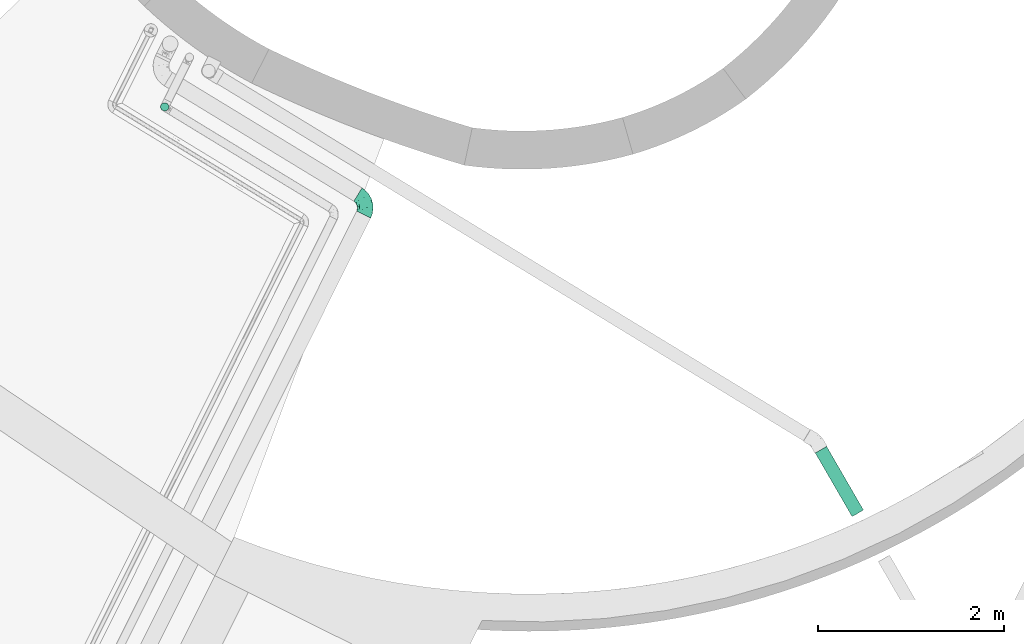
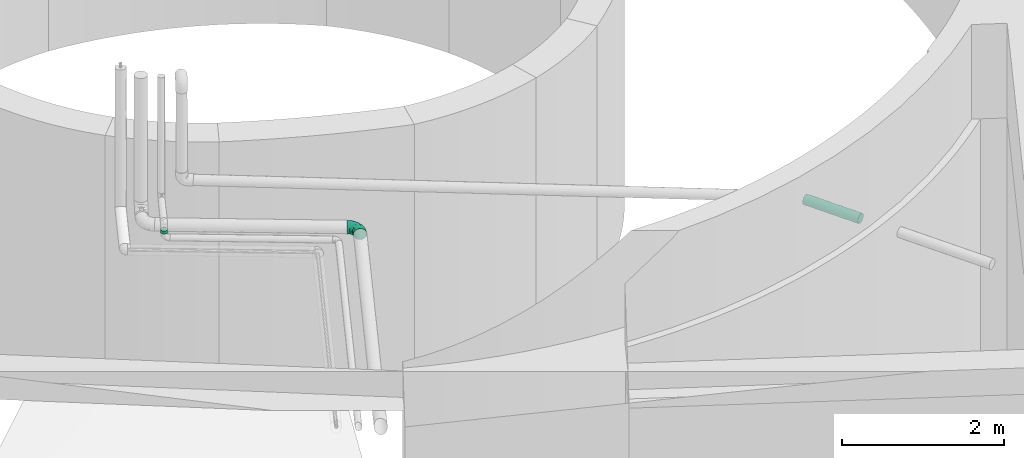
# One storey, part 33 of 47: 2 flow segments, 1 flow fitting.
"""IFC2X3 building model written with IfcOpenShell, lengths in metres."""

from ifc_helpers import new_model, entity, si_unit, converted_unit, derived_unit, direction, frame, frame_2d, origin, place, context, subcontext, project, spatial, circle, extrude, faceted_brep, source, transform, mapped, type_object, type_shapes, element, save


model = new_model("IFC2X3")

# Units and contexts
model_context = context("Model", 3, precision=1e-05, world=origin(), true_north=direction((0.894925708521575, 0.446215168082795)))
context_of_model = context(None, 3, precision=1e-05, world=origin(), true_north=direction((0.894925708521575, 0.446215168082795)))
body_context = subcontext(model_context, "Body", "Model", "MODEL_VIEW")
ifc_project = project(units=[si_unit("LENGTHUNIT", "METRE"), si_unit("AREAUNIT", "SQUARE_METRE"), si_unit("VOLUMEUNIT", "CUBIC_METRE"), converted_unit("PLANEANGLEUNIT", "DEGREE", entity("IfcRatioMeasure", 0.0174532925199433), si_unit("PLANEANGLEUNIT", "RADIAN"), dimensions=[0, 0, 0, 0, 0, 0, 0]), si_unit("MASSUNIT", "GRAM", prefix="KILO"), si_unit("TIMEUNIT", "SECOND"), si_unit("FREQUENCYUNIT", "HERTZ"), si_unit("THERMODYNAMICTEMPERATUREUNIT", "DEGREE_CELSIUS"), derived_unit("THERMALTRANSMITTANCEUNIT", [(si_unit("MASSUNIT", "GRAM", prefix="KILO"), 1), (si_unit("THERMODYNAMICTEMPERATUREUNIT", "KELVIN"), -1), (si_unit("TIMEUNIT", "SECOND"), -3)]), derived_unit("VOLUMETRICFLOWRATEUNIT", [(si_unit("LENGTHUNIT", "METRE"), 3), (si_unit("TIMEUNIT", "SECOND"), -1)]), si_unit("ELECTRICCURRENTUNIT", "AMPERE"), si_unit("ELECTRICVOLTAGEUNIT", "VOLT"), si_unit("POWERUNIT", "WATT"), si_unit("FORCEUNIT", "NEWTON", prefix="KILO"), si_unit("ILLUMINANCEUNIT", "LUX"), si_unit("LUMINOUSFLUXUNIT", "LUMEN"), si_unit("LUMINOUSINTENSITYUNIT", "CANDELA"), si_unit("PRESSUREUNIT", "PASCAL")], contexts=[model_context, context_of_model])

# Site, building, storey
site_placement = place(None, frame((218.228324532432, 584.720189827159, 0.0), z_axis=(0.0, 0.0, 1.0), x_axis=(0.446215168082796, 0.894925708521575, 0.0)))
site = spatial("IfcSite", under=ifc_project, at=site_placement, Name="Default", CompositionType="ELEMENT")
building_placement = place(site_placement, origin())
building = spatial("IfcBuilding", under=site, at=building_placement, CompositionType="ELEMENT")
storey_placement = place(building_placement, frame((0.0, 0.0, 4.69)))
storey = spatial("IfcBuildingStorey", under=building, at=storey_placement, Name="1 - Piano Primo", CompositionType="ELEMENT", Elevation=4.69)

# Flow segments
pipe_segment_type_1 = type_object("IfcPipeSegmentType", Name="Tubazione:Pluviale-Tubazione", PredefinedType="NOTDEFINED")
flow_segment_1_placement = place(storey_placement, frame((65.6548572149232, -10.9185110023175, 3.21259764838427)))
element("IfcFlowSegment", 1, at=flow_segment_1_placement, inside=storey, type_object=pipe_segment_type_1, Name="Tubazione:Pluviale-Tubazione", ObjectType="Tubazione:Pluviale-Tubazione", context=body_context, shape_type="SweptSolid", body=[
    extrude(circle(Radius=0.0706501, at=frame_2d((-7.2302681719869e-15, -8.32787072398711e-17), x_axis=(1.0, 0.0))), frame((0.0605613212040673, 0.0405111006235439, 0.0722346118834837), z_axis=(0.55074092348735, 0.834493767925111, 0.0174524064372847), x_axis=(-0.834620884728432, 0.550824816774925, 0.0)), (0.0, 0.0, 1.0), 0.789521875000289),
])
pipe_segment_type_2 = type_object("IfcPipeSegmentType", Name="Tubazione:Antincendio-Tubazione", PredefinedType="NOTDEFINED")
flow_segment_2_placement = place(storey_placement, frame((66.253347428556, -2.31966475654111, 3.03599999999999)))
element("IfcFlowSegment", 2, at=flow_segment_2_placement, inside=storey, type_object=pipe_segment_type_2, Name="Tubazione:Antincendio-Tubazione", ObjectType="Tubazione:Antincendio-Tubazione", context=body_context, shape_type="SweptSolid", body=[
    extrude(circle(Radius=0.04445, at=frame_2d((0.0, -2.70716782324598e-16), x_axis=(1.0, 0.0))), frame((0.0460452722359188, 0.0460452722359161, 0.0)), (0.0, 0.0, 1.0), 0.0480000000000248),
])

# Flow fitting
pipe_fitting_type = type_object("IfcPipeFittingType", Name="Standard", PredefinedType="NOTDEFINED")
shared_shape = source(origin(), body_context, "Body", "Brep", [
    faceted_brep([(-0.151999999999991, 0.0, -0.0841500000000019), (-0.151999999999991, -0.0217796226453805, -0.081282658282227), (-0.151999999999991, -0.0420750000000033, -0.0728760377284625), (-0.151999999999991, -0.0595030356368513, -0.05950303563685), (-0.151999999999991, -0.0728760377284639, -0.0420750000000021), (-0.151999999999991, -0.0812826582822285, -0.0217796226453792), (-0.151999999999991, -0.0841500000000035, 0.0), (-0.151999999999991, -0.0812826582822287, 0.021779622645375), (-0.151999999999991, -0.0728760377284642, 0.0420749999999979), (-0.151999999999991, -0.0595030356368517, 0.0595030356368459), (-0.151999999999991, -0.0420750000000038, 0.0728760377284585), (-0.151999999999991, -0.0217796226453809, 0.0812826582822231), (-0.151999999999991, 0.0, 0.0841499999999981), (-0.151999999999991, 0.0217796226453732, 0.0812826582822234), (-0.151999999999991, 0.0420749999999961, 0.0728760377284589), (-0.151999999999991, 0.0595030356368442, 0.0595030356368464), (-0.151999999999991, 0.0728760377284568, 0.0420749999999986), (-0.151999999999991, 0.0812826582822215, 0.0217796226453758), (-0.151999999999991, 0.0841499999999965, 0.0), (-0.151999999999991, 0.0812826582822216, -0.021779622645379), (-0.151999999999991, 0.0728760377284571, -0.0420750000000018), (-0.151999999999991, 0.0595030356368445, -0.0595030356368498), (-0.151999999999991, 0.0420749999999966, -0.0728760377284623), (-0.151999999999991, 0.0217796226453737, -0.0812826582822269), (0.0854479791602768, 0.145305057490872, -0.0420750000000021), (0.0721227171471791, 0.146434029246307, -0.05950303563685), (0.0547568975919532, 0.147905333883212, -0.0728760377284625), (0.034533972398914, 0.149618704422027, -0.081282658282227), (0.012832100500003, 0.15145737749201, -0.0841500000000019), (-0.00886977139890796, 0.153296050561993, -0.0812826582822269), (-0.0290926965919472, 0.155009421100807, -0.0728760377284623), (-0.046458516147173, 0.156480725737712, -0.0595030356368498), (-0.0597837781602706, 0.157609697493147, -0.0420750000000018), (-0.068160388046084, 0.158319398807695, -0.021779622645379), (-0.0710174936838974, 0.158561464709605, 0.0), (-0.0681603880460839, 0.158319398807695, 0.0217796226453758), (-0.0597837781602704, 0.157609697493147, 0.0420749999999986), (-0.0464585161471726, 0.156480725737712, 0.0595030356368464), (-0.0290926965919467, 0.155009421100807, 0.0728760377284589), (-0.00886977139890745, 0.153296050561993, 0.0812826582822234), (0.0128321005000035, 0.15145737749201, 0.0841499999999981), (0.0345339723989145, 0.149618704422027, 0.0812826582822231), (0.0547568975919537, 0.147905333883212, 0.0728760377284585), (0.0721227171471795, 0.146434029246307, 0.0595030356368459), (0.085447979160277, 0.145305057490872, 0.0420749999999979), (0.0938245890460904, 0.144595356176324, 0.021779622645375), (0.0966816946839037, 0.144353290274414, 0.0), (0.0938245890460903, 0.144595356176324, -0.0217796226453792), (-0.108023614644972, -0.0653863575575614, 0.0473880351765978), (-0.0953306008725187, -0.0485685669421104, 0.06285994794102), (-0.0994067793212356, -0.0785455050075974, 0.0), (0.0353835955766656, 0.000577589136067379, 0.0), (0.0158141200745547, -0.0172106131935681, 0.016063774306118), (-0.00356267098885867, -0.0352085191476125, 0.0), (-0.0984850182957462, -0.0739036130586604, 0.0266642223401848), (-0.077653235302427, 0.127498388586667, 0.0190647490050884), (-0.0744292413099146, 0.119924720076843, 0.0371750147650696), (0.0450435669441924, 0.0527612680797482, 0.0573779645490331), (0.0273056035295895, 0.0524970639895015, 0.0701487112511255), (0.0236525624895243, 0.0180683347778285, 0.0548094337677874), (0.0113854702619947, -0.0123908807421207, 0.0360075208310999), (0.0512433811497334, 0.025565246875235, 0.0217458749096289), (-0.0298000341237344, -0.0489021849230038, 0.021745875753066), (-0.0631956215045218, -0.0629629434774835, 0.0272356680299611), (-0.0491756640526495, -0.0619837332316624, 0.0), (-0.0200006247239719, -0.022042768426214, 0.0548094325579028), (-0.00819527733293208, 0.00891897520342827, 0.069722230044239), (-0.0546148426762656, -0.022776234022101, 0.0701487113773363), (-0.108292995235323, -0.0317820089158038, 0.0757894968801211), (-0.072822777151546, -0.00216494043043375, 0.0817564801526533), (-0.115146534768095, -0.0112967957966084, 0.0827843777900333), (-0.0429711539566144, 0.0328577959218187, 0.0839199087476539), (-0.0149653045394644, 0.0456402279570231, 0.0824997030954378), (-0.022305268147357, 0.0753019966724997, 0.0838159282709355), (-0.10209403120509, 0.0355562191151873, 0.0799354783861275), (-0.00201967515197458, 0.111923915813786, 0.0839222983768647), (-0.0268103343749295, 0.104731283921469, 0.0799354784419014), (-0.111353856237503, 0.0114612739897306, 0.0839222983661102), (-0.0758823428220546, 0.0278990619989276, 0.0837456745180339), (-0.104182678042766, 0.0941115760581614, 0.0274015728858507), (-0.126779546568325, 0.0799950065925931, 0.0353824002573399), (-0.122491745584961, 0.0896961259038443, 0.0), (0.0564431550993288, 0.0908900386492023, 0.0628599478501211), (-0.0221425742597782, -0.0363236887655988, 0.0391210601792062), (-0.0947281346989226, 0.0603971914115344, 0.0705967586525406), (-0.0805236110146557, 0.0876716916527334, 0.0591947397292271), (-0.116252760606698, 0.0701089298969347, 0.0550723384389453), (-0.125981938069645, 0.0513858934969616, 0.0687989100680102), (-0.0314768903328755, 0.0141051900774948, 0.0793454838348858), (0.000980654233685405, 0.0384539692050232, 0.0772445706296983), (0.0408108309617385, 0.105223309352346, 0.0757894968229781), (0.0209773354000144, 0.113781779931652, 0.0827843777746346), (-0.0984730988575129, 0.0876732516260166, 0.045122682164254), (0.0866571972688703, 0.0924209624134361, 0.0), (0.081954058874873, 0.0918943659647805, 0.0266642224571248), (0.070624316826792, 0.0569905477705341, 0.0179909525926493), (0.0587352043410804, 0.0550831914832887, 0.0428018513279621), (0.0742724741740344, 0.102117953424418, 0.0473880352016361), (-0.0430768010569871, 0.119768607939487, 0.0695856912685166), (-0.0591695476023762, 0.124231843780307, 0.0547961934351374), (-0.0790349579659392, 0.129626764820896, 0.0), (-0.0970108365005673, 0.105577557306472, 0.0), (-0.0603072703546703, 0.0825530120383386, 0.0730164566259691), (0.0659139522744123, 0.0437673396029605, 0.0), (-0.0534204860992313, 0.0581378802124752, 0.0818056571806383), (0.00830503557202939, 0.0723800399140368, 0.0817564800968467), (-0.0561866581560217, -0.0391050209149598, 0.0585560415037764), (-0.059845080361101, -0.0538753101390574, 0.0428018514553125), (0.0380633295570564, 0.0189970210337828, 0.0391210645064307), (-0.12600980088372, 0.051382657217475, -0.0687967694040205), (-0.0563755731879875, -0.0404285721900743, -0.0573779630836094), (-0.0546148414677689, -0.022776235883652, -0.0701487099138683), (-0.0200006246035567, -0.0220427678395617, -0.0548094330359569), (-0.111353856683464, 0.0114612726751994, -0.0839222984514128), (0.0512433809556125, 0.0255652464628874, -0.0217458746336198), (-0.102094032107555, 0.0355562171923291, -0.0799354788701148), (-0.116277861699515, 0.0701020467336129, -0.0550696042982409), (-0.126779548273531, 0.079995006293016, -0.0353823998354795), (-0.0984792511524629, 0.0876727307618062, -0.0451178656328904), (0.0408108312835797, 0.105223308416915, -0.0757894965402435), (-0.104182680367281, 0.094111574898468, -0.0274015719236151), (0.0236525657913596, 0.018068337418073, -0.0548094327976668), (0.0380633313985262, 0.0189970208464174, -0.0391210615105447), (0.0113854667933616, -0.0123908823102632, -0.0360075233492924), (-0.0947742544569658, 0.0603788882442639, -0.0705928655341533), (-0.0534204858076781, 0.0581378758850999, -0.0818056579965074), (-0.0591695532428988, 0.124231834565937, -0.0547961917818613), (-0.0442138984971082, 0.0187649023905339, -0.0824997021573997), (-0.0113975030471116, 0.0325553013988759, -0.0793454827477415), (-0.0383994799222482, 0.00226919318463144, -0.0772445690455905), (-0.0984850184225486, -0.073903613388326, -0.0266642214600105), (-0.108023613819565, -0.0653863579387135, -0.0473880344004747), (-0.0731501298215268, 0.0285827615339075, -0.083815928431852), (-0.0805607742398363, 0.0876375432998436, -0.0591947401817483), (-0.029800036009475, -0.0489021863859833, -0.0217458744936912), (-0.0627493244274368, -0.0655609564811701, -0.0179909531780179), (-0.0953306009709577, -0.0485685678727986, -0.0628599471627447), (-0.108292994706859, -0.0317820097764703, -0.0757894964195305), (-0.115146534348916, -0.0112967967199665, -0.082784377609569), (-0.0598450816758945, -0.0538753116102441, -0.0428018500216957), (-0.0268103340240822, 0.104731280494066, -0.0799354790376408), (-0.00201967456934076, 0.11192391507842, -0.0839222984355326), (-0.0213933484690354, 0.0779667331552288, -0.0837456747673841), (-0.0744292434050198, 0.119924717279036, -0.0371750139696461), (-0.083571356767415, 0.117596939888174, -0.0191696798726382), (-0.00819527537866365, 0.0089189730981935, -0.0697222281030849), (0.0273056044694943, 0.0524970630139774, -0.0701487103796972), (-0.0603158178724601, 0.0825261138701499, -0.0730231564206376), (-0.0430767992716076, 0.119768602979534, -0.0695856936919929), (0.0742724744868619, 0.102117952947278, -0.0473880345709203), (0.0564431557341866, 0.090890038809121, -0.0628599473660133), (0.0209773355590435, 0.113781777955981, -0.082784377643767), (-0.0291128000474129, 0.0455916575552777, -0.0839199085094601), (0.0680732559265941, 0.0576545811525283, -0.0272356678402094), (0.0158141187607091, -0.0172106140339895, -0.0160637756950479), (0.0819540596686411, 0.0918943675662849, -0.0266642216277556), (0.00830503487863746, 0.072380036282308, -0.0817564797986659), (-0.072822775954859, -0.0021649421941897, -0.0817564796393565), (0.0437087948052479, 0.0526847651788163, -0.0585560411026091), (0.0587352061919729, 0.0550831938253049, -0.0428018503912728), (-0.0221425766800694, -0.0363236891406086, -0.0391210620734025)], [[[0, 1, 2, 3, 4, 5, 6, 7, 8, 9, 10, 11, 12, 13, 14, 15, 16, 17, 18, 19, 20, 21, 22, 23]], [[24, 25, 26, 27, 28, 29, 30, 31, 32, 33, 34, 35, 36, 37, 38, 39, 40, 41, 42, 43, 44, 45, 46, 47]], [[9, 48, 49]], [[7, 6, 50]], [[51, 52, 53]], [[54, 8, 7]], [[50, 54, 7]], [[35, 55, 56]], [[48, 8, 54]], [[57, 58, 59]], [[60, 52, 61]], [[62, 63, 64]], [[9, 49, 10]], [[53, 62, 64]], [[65, 66, 67]], [[68, 67, 69]], [[56, 36, 35]], [[70, 12, 11]], [[71, 72, 73]], [[14, 13, 74]], [[68, 10, 49]], [[75, 39, 76]], [[74, 77, 78]], [[79, 17, 80]], [[17, 81, 18]], [[81, 17, 79]], [[82, 43, 42]], [[60, 65, 83]], [[84, 85, 86]], [[59, 58, 66]], [[84, 87, 74]], [[72, 88, 89]], [[82, 42, 90]], [[80, 17, 16]], [[91, 41, 40]], [[80, 92, 79]], [[93, 94, 95]], [[93, 45, 94]], [[15, 14, 87]], [[40, 39, 75]], [[92, 56, 79]], [[45, 44, 94]], [[82, 96, 97]], [[97, 94, 44]], [[97, 44, 43]], [[8, 48, 9]], [[96, 61, 95]], [[45, 93, 46]], [[85, 98, 99]], [[64, 54, 50]], [[76, 73, 75]], [[34, 100, 55]], [[13, 77, 74]], [[79, 55, 101]], [[15, 86, 16]], [[79, 101, 81]], [[90, 42, 41]], [[99, 98, 37]], [[55, 79, 56]], [[76, 98, 102]], [[59, 65, 60]], [[98, 85, 102]], [[10, 68, 11]], [[38, 98, 76]], [[76, 39, 38]], [[13, 12, 77]], [[82, 90, 58]], [[51, 103, 61]], [[37, 36, 99]], [[38, 37, 98]], [[85, 84, 102]], [[73, 76, 104]], [[91, 75, 105]], [[70, 77, 12]], [[69, 71, 78]], [[67, 68, 49]], [[70, 68, 69]], [[67, 106, 65]], [[67, 66, 88]], [[91, 90, 41]], [[88, 66, 89]], [[105, 58, 90]], [[65, 59, 66]], [[63, 48, 54]], [[49, 48, 107]], [[82, 97, 43]], [[96, 94, 97]], [[86, 15, 87]], [[104, 84, 74]], [[36, 56, 99]], [[85, 99, 56]], [[106, 67, 49]], [[65, 106, 83]], [[108, 59, 60]], [[82, 57, 96]], [[62, 53, 52]], [[63, 62, 107]], [[95, 61, 103]], [[96, 57, 108]], [[84, 104, 102]], [[76, 102, 104]], [[75, 91, 40]], [[90, 91, 105]], [[68, 70, 11]], [[77, 70, 69]], [[71, 73, 104]], [[105, 75, 73]], [[104, 74, 78]], [[71, 69, 88]], [[69, 78, 77]], [[104, 78, 71]], [[67, 88, 69]], [[66, 58, 89]], [[58, 105, 89]], [[72, 89, 105]], [[73, 72, 105]], [[88, 72, 71]], [[16, 86, 80]], [[92, 86, 85]], [[86, 92, 80]], [[56, 92, 85]], [[74, 87, 14]], [[86, 87, 84]], [[61, 52, 51]], [[62, 52, 60]], [[34, 55, 35]], [[55, 100, 101]], [[49, 107, 106]], [[83, 106, 107]], [[107, 62, 83]], [[62, 60, 83]], [[60, 61, 108]], [[61, 96, 108]], [[58, 57, 82]], [[108, 57, 59]], [[48, 63, 107]], [[64, 63, 54]], [[93, 95, 103]], [[96, 95, 94]], [[22, 21, 109]], [[110, 111, 112]], [[0, 23, 113]], [[51, 114, 103]], [[23, 22, 115]], [[116, 117, 118]], [[18, 81, 19]], [[26, 119, 27]], [[81, 120, 19]], [[121, 122, 123]], [[115, 124, 125]], [[31, 126, 32]], [[127, 128, 129]], [[20, 116, 21]], [[4, 130, 5]], [[131, 4, 3]], [[50, 6, 5]], [[132, 115, 125]], [[131, 130, 4]], [[124, 116, 133]], [[64, 134, 53]], [[116, 124, 109]], [[115, 132, 113]], [[130, 50, 5]], [[130, 135, 50]], [[136, 137, 111]], [[138, 1, 0]], [[136, 139, 131]], [[137, 2, 1]], [[140, 141, 142]], [[101, 120, 81]], [[117, 20, 19]], [[143, 144, 33]], [[112, 111, 145]], [[33, 144, 34]], [[145, 146, 121]], [[124, 133, 147]], [[144, 143, 120]], [[140, 148, 30]], [[25, 149, 150]], [[28, 27, 151]], [[29, 141, 140]], [[101, 100, 144]], [[29, 140, 30]], [[19, 120, 117]], [[30, 148, 31]], [[152, 127, 132]], [[26, 150, 119]], [[103, 114, 153]], [[154, 51, 53]], [[113, 23, 115]], [[136, 3, 2]], [[136, 2, 137]], [[150, 26, 25]], [[155, 24, 47]], [[29, 28, 141]], [[46, 93, 47]], [[24, 149, 25]], [[103, 155, 93]], [[155, 47, 93]], [[112, 121, 123]], [[24, 155, 149]], [[123, 154, 134]], [[119, 146, 156]], [[126, 31, 148]], [[32, 143, 33]], [[118, 143, 133]], [[139, 134, 135]], [[138, 113, 157]], [[151, 141, 28]], [[156, 152, 142]], [[147, 140, 125]], [[126, 133, 143]], [[138, 137, 1]], [[128, 145, 129]], [[157, 111, 137]], [[121, 112, 145]], [[146, 119, 150]], [[151, 119, 156]], [[146, 158, 121]], [[146, 145, 128]], [[136, 131, 3]], [[139, 130, 131]], [[153, 149, 155]], [[150, 149, 159]], [[133, 148, 147]], [[109, 115, 22]], [[133, 126, 148]], [[143, 32, 126]], [[160, 112, 123]], [[136, 110, 139]], [[158, 146, 150]], [[121, 158, 122]], [[135, 134, 64]], [[139, 110, 160]], [[114, 51, 154]], [[153, 114, 159]], [[140, 147, 148]], [[125, 124, 147]], [[113, 138, 0]], [[137, 138, 157]], [[119, 151, 27]], [[141, 151, 156]], [[152, 132, 125]], [[157, 113, 132]], [[125, 140, 142]], [[152, 156, 128]], [[156, 142, 141]], [[125, 142, 152]], [[146, 128, 156]], [[145, 111, 129]], [[111, 157, 129]], [[127, 129, 157]], [[132, 127, 157]], [[128, 127, 152]], [[118, 117, 120]], [[116, 20, 117]], [[143, 118, 120]], [[116, 118, 133]], [[116, 109, 21]], [[115, 109, 124]], [[134, 154, 53]], [[114, 154, 123]], [[101, 144, 120]], [[144, 100, 34]], [[123, 134, 160]], [[134, 139, 160]], [[111, 110, 136]], [[160, 110, 112]], [[150, 159, 158]], [[122, 158, 159]], [[159, 114, 122]], [[114, 123, 122]], [[50, 135, 64]], [[139, 135, 130]], [[149, 153, 159]], [[103, 153, 155]]]),
])
type_shapes(pipe_fitting_type, [shared_shape])
flow_fitting_placement = place(storey_placement, frame((66.3697134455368, -4.70107899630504, 2.96)))
element("IfcFlowFitting", 3, at=flow_fitting_placement, inside=storey, type_object=pipe_fitting_type, Name="M_Gomito - Saldato - Generico:Standard", ObjectType="Standard", context=body_context, shape_type="MappedRepresentation", body=[
    mapped(shared_shape, transform((0.0, 0.0, 0.0), scale=1.0)),
])

save(model, "model.ifc")
